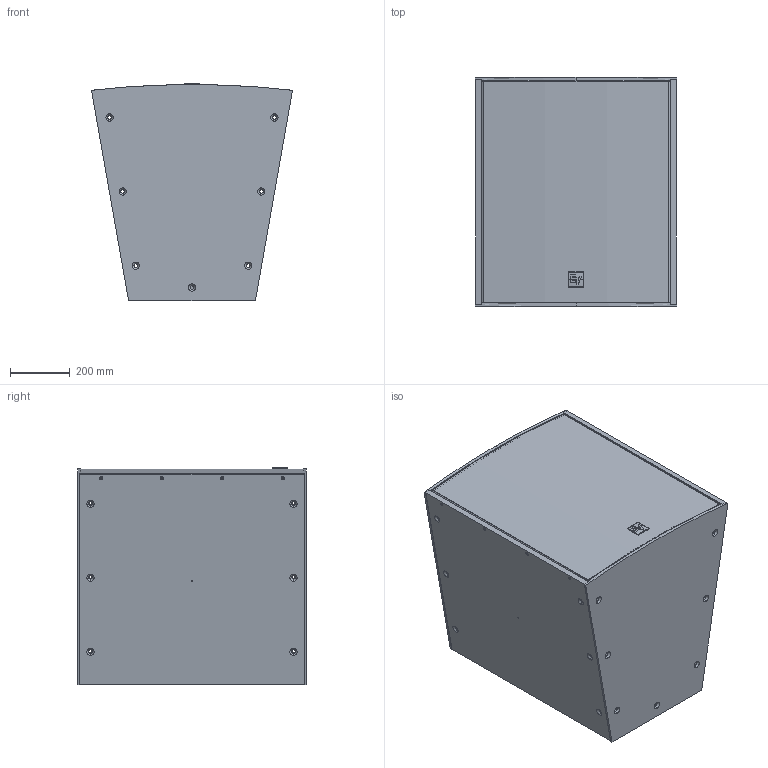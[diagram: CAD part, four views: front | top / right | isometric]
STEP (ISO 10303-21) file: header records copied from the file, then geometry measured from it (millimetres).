
FILE_DESCRIPTION (( 'STEP AP214' ), '1' );
FILE_NAME ('EVF-1181S 3D CAD.STEP', '2023-02-01T06:16:23', ( '' ), ( '' ), 'SwSTEP 2.0', 'SolidWorks 2021', '' );
FILE_SCHEMA (( 'AUTOMOTIVE_DESIGN' ));
Length unit declared in the file: millimetre
Products named in the file (8): EVF-1181S Top Bottom Plate; EVF-1181S Grille; EVF-1181S Enclosure Assembly; EVF-1181S EV Logo; EVF-1181S Rear Panel; EVF-1181S Rear Plate; EVF-1181S 3D CAD; EVF-1181S Side Plate
Assembly tree (9 placements, depth 3):
  EVF-1181S 3D CAD
    EVF-1181S Enclosure Assembly
      EVF-1181S Top Bottom Plate  x2
      EVF-1181S Side Plate  x2
      EVF-1181S Rear Plate
    EVF-1181S Grille
    EVF-1181S EV Logo
    EVF-1181S Rear Panel
Bounding box: 675.64 x 768.55 x 730.33 mm (x, y, z)
Volume: 38230224 mm3; surface area: 5746363.7 mm2
Topology: 8 solids, 8 shells, 769 faces, 1986 edges, 1279 vertices
Faces by surface type: plane 302, cylinder 274, bspline 129, cone 64
Entity records: 20439 total; most frequent: CARTESIAN_POINT 7779, ORIENTED_EDGE 2730, DIRECTION 2305, EDGE_CURVE 1365, VERTEX_POINT 875, AXIS2_PLACEMENT_3D 823, LINE 659, VECTOR 659
